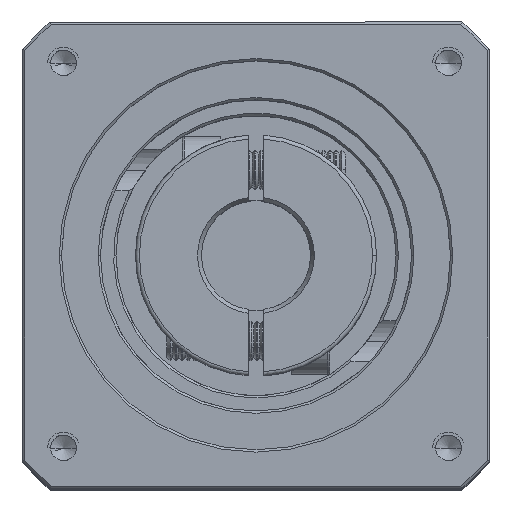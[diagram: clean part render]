
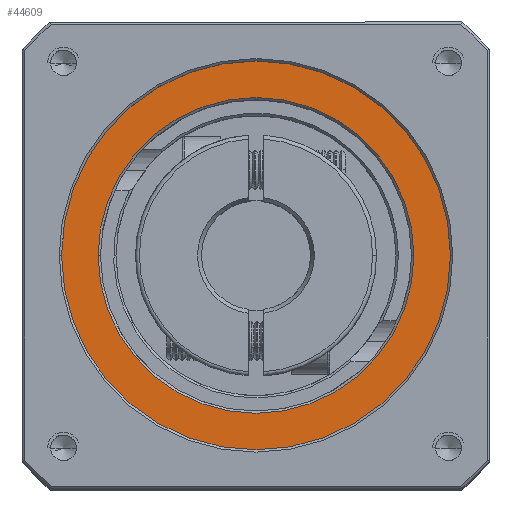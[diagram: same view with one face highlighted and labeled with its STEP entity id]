
A CAD part, top view. The second image highlights one B-rep face of the part: STEP entity #44609.
In plain terms, the highlighted planar face has unit normal (0, 0, 1).
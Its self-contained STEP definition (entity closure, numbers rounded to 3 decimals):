
#115 = DIRECTION ( 'NONE',  ( 0., 0., 1. ) ) ;
#1798 = DIRECTION ( 'NONE',  ( 1., 0., 0. ) ) ;
#4167 = FACE_BOUND ( 'NONE', #45123, .T. ) ;
#5879 = CARTESIAN_POINT ( 'NONE',  ( -37.326, 30.565, -5.04 ) ) ;
#15992 = CARTESIAN_POINT ( 'NONE',  ( -12.326, 30.565, -5.04 ) ) ;
#16283 = AXIS2_PLACEMENT_3D ( 'NONE', #35604, #99828, #72062 ) ;
#16852 = DIRECTION ( 'NONE',  ( 0., 0., 1. ) ) ;
#17818 = ORIENTED_EDGE ( 'NONE', *, *, #42641, .T. ) ;
#17914 = DIRECTION ( 'NONE',  ( 1., 0., 0. ) ) ;
#23584 = CIRCLE ( 'NONE', #61992, 25. ) ;
#24208 = FACE_OUTER_BOUND ( 'NONE', #70207, .T. ) ;
#25170 = ORIENTED_EDGE ( 'NONE', *, *, #56431, .T. ) ;
#30871 = AXIS2_PLACEMENT_3D ( 'NONE', #97359, #49334, #1798 ) ;
#33767 = ORIENTED_EDGE ( 'NONE', *, *, #86285, .T. ) ;
#35332 = CIRCLE ( 'NONE', #16283, 20.3 ) ;
#35604 = CARTESIAN_POINT ( 'NONE',  ( -37.326, 30.565, -5.04 ) ) ;
#39623 = EDGE_CURVE ( 'NONE', #93563, #55398, #23584, .T. ) ;
#40605 = DIRECTION ( 'NONE',  ( 1., 0., 0. ) ) ;
#42074 = AXIS2_PLACEMENT_3D ( 'NONE', #5879, #103183, #54812 ) ;
#42641 = EDGE_CURVE ( 'NONE', #55398, #93563, #69004, .T. ) ;
#43249 = ORIENTED_EDGE ( 'NONE', *, *, #39623, .T. ) ;
#44609 = ADVANCED_FACE ( 'NONE', ( #4167, #24208 ), #79589, .T. ) ;
#45123 = EDGE_LOOP ( 'NONE', ( #33767, #25170 ) ) ;
#49040 = CARTESIAN_POINT ( 'NONE',  ( -37.326, 30.565, -5.04 ) ) ;
#49334 = DIRECTION ( 'NONE',  ( 0., 0., -1. ) ) ;
#49726 = CARTESIAN_POINT ( 'NONE',  ( -37.326, 30.565, -5.04 ) ) ;
#54812 = DIRECTION ( 'NONE',  ( 1., 0., 0. ) ) ;
#55398 = VERTEX_POINT ( 'NONE', #15992 ) ;
#56431 = EDGE_CURVE ( 'NONE', #72602, #94169, #76188, .T. ) ;
#58700 = CARTESIAN_POINT ( 'NONE',  ( -17.026, 30.565, -5.04 ) ) ;
#61992 = AXIS2_PLACEMENT_3D ( 'NONE', #49726, #16852, #17914 ) ;
#69004 = CIRCLE ( 'NONE', #42074, 25. ) ;
#70207 = EDGE_LOOP ( 'NONE', ( #17818, #43249 ) ) ;
#72062 = DIRECTION ( 'NONE',  ( 1., 0., 0. ) ) ;
#72602 = VERTEX_POINT ( 'NONE', #95390 ) ;
#76188 = CIRCLE ( 'NONE', #30871, 20.3 ) ;
#79589 = PLANE ( 'NONE',  #84705 ) ;
#84705 = AXIS2_PLACEMENT_3D ( 'NONE', #49040, #115, #40605 ) ;
#86285 = EDGE_CURVE ( 'NONE', #94169, #72602, #35332, .T. ) ;
#93563 = VERTEX_POINT ( 'NONE', #96377 ) ;
#94169 = VERTEX_POINT ( 'NONE', #58700 ) ;
#95390 = CARTESIAN_POINT ( 'NONE',  ( -57.626, 30.565, -5.04 ) ) ;
#96377 = CARTESIAN_POINT ( 'NONE',  ( -62.326, 30.565, -5.04 ) ) ;
#97359 = CARTESIAN_POINT ( 'NONE',  ( -37.326, 30.565, -5.04 ) ) ;
#99828 = DIRECTION ( 'NONE',  ( 0., 0., -1. ) ) ;
#103183 = DIRECTION ( 'NONE',  ( 0., 0., 1. ) ) ;
